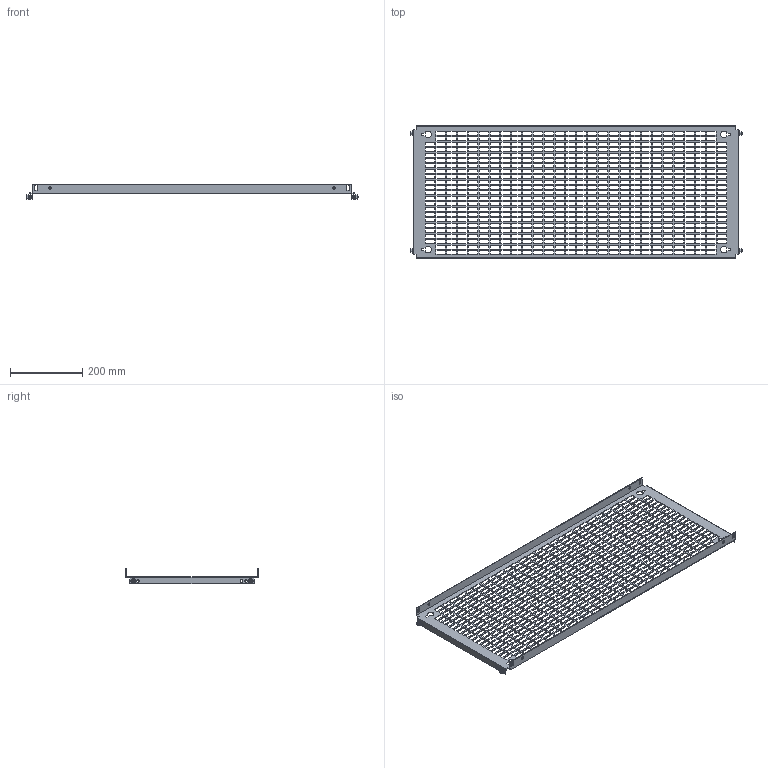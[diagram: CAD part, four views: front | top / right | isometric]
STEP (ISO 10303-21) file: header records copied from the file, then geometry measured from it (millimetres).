
FILE_DESCRIPTION(('Open CASCADE Model'),'2;1');
FILE_NAME('Open CASCADE Shape Model','2025-02-19T16:49:59',('Author'),( 'Open CASCADE'),'Open CASCADE STEP processor 7.8','Open CASCADE 7.8' ,'Unknown');
FILE_SCHEMA(('AUTOMOTIVE_DESIGN { 1 0 10303 214 1 1 1 1 }'));
Length unit declared in the file: millimetre
Products named in the file (4): Compound1; Solid1; Solid2; Solid3
Assembly tree (9 placements, depth 2):
  Compound1
    Solid1
    Solid2  x4
    Solid3  x4
Bounding box: 920 x 369 x 43 mm (x, y, z)
Volume: 409508.3 mm3; surface area: 509767.8 mm2
Topology: 9 solids, 9 shells, 2836 faces, 8337 edges, 5523 vertices
Faces by surface type: plane 2678, cone 68, bspline 48, cylinder 30, torus 12
Full cylindrical faces by diameter (mm): 5 x4, 6 x8, 7 x14
Entity records: 91286 total; most frequent: CARTESIAN_POINT 16607, ORIENTED_EDGE 15996, DIRECTION 13342, EDGE_CURVE 7998, LINE 7840, VECTOR 7840, VERTEX_POINT 5325, FACE_BOUND 3999
